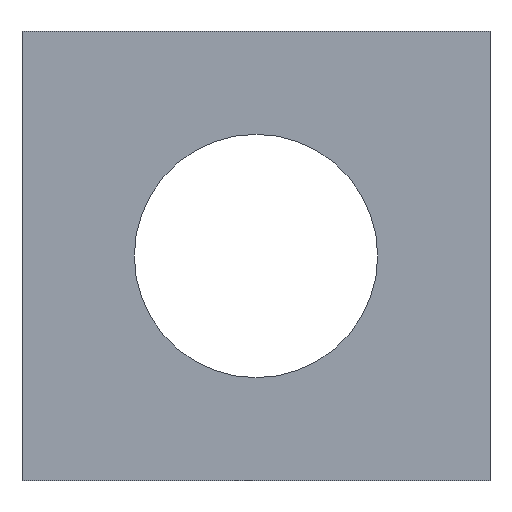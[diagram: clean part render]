
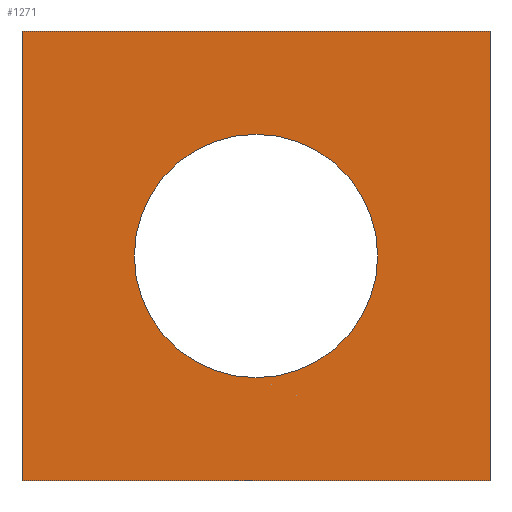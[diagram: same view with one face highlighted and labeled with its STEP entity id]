
A CAD part, front view. The second image highlights one B-rep face of the part: STEP entity #1271.
In plain terms, the highlighted planar face has unit normal (0, -1, 0).
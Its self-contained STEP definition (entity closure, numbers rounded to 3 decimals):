
#100 = PLANE('',#101);
#101 = AXIS2_PLACEMENT_3D('',#102,#103,#104);
#102 = CARTESIAN_POINT('',(-50.,-27.5,0.));
#103 = DIRECTION('',(0.,0.,1.));
#104 = DIRECTION('',(1.,0.,0.));
#591 = VERTEX_POINT('',#592);
#592 = CARTESIAN_POINT('',(-50.,-27.5,0.));
#606 = PLANE('',#607);
#607 = AXIS2_PLACEMENT_3D('',#608,#609,#610);
#608 = CARTESIAN_POINT('',(-50.,-27.5,0.));
#609 = DIRECTION('',(1.,0.,0.));
#610 = DIRECTION('',(0.,0.,1.));
#618 = EDGE_CURVE('',#619,#591,#621,.T.);
#619 = VERTEX_POINT('',#620);
#620 = CARTESIAN_POINT('',(50.,-27.5,0.));
#621 = SURFACE_CURVE('',#622,(#626,#633),.PCURVE_S1.);
#622 = LINE('',#623,#624);
#623 = CARTESIAN_POINT('',(50.,-27.5,0.));
#624 = VECTOR('',#625,1.);
#625 = DIRECTION('',(-1.,0.,0.));
#626 = PCURVE('',#100,#627);
#627 = DEFINITIONAL_REPRESENTATION('',(#628),#632);
#628 = LINE('',#629,#630);
#629 = CARTESIAN_POINT('',(100.,0.));
#630 = VECTOR('',#631,1.);
#631 = DIRECTION('',(-1.,0.));
#632 = ( GEOMETRIC_REPRESENTATION_CONTEXT(2) 
PARAMETRIC_REPRESENTATION_CONTEXT() REPRESENTATION_CONTEXT('2D SPACE',''
  ) );
#633 = PCURVE('',#634,#639);
#634 = PLANE('',#635);
#635 = AXIS2_PLACEMENT_3D('',#636,#637,#638);
#636 = CARTESIAN_POINT('',(-50.,-27.5,0.));
#637 = DIRECTION('',(0.,1.,0.));
#638 = DIRECTION('',(0.,0.,1.));
#639 = DEFINITIONAL_REPRESENTATION('',(#640),#644);
#640 = LINE('',#641,#642);
#641 = CARTESIAN_POINT('',(0.,100.));
#642 = VECTOR('',#643,1.);
#643 = DIRECTION('',(0.,-1.));
#644 = ( GEOMETRIC_REPRESENTATION_CONTEXT(2) 
PARAMETRIC_REPRESENTATION_CONTEXT() REPRESENTATION_CONTEXT('2D SPACE',''
  ) );
#662 = PLANE('',#663);
#663 = AXIS2_PLACEMENT_3D('',#664,#665,#666);
#664 = CARTESIAN_POINT('',(50.,-27.5,0.));
#665 = DIRECTION('',(1.,0.,0.));
#666 = DIRECTION('',(0.,0.,1.));
#941 = PLANE('',#942);
#942 = AXIS2_PLACEMENT_3D('',#943,#944,#945);
#943 = CARTESIAN_POINT('',(-50.,-27.5,96.));
#944 = DIRECTION('',(0.,0.,1.));
#945 = DIRECTION('',(1.,0.,0.));
#1015 = CYLINDRICAL_SURFACE('',#1016,26.);
#1016 = AXIS2_PLACEMENT_3D('',#1017,#1018,#1019);
#1017 = CARTESIAN_POINT('',(0.,0.,48.));
#1018 = DIRECTION('',(-0.,1.,-0.));
#1019 = DIRECTION('',(1.,0.,0.));
#1226 = EDGE_CURVE('',#591,#1227,#1229,.T.);
#1227 = VERTEX_POINT('',#1228);
#1228 = CARTESIAN_POINT('',(-50.,-27.5,96.));
#1229 = SURFACE_CURVE('',#1230,(#1234,#1241),.PCURVE_S1.);
#1230 = LINE('',#1231,#1232);
#1231 = CARTESIAN_POINT('',(-50.,-27.5,0.));
#1232 = VECTOR('',#1233,1.);
#1233 = DIRECTION('',(0.,0.,1.));
#1234 = PCURVE('',#606,#1235);
#1235 = DEFINITIONAL_REPRESENTATION('',(#1236),#1240);
#1236 = LINE('',#1237,#1238);
#1237 = CARTESIAN_POINT('',(0.,0.));
#1238 = VECTOR('',#1239,1.);
#1239 = DIRECTION('',(1.,0.));
#1240 = ( GEOMETRIC_REPRESENTATION_CONTEXT(2) 
PARAMETRIC_REPRESENTATION_CONTEXT() REPRESENTATION_CONTEXT('2D SPACE',''
  ) );
#1241 = PCURVE('',#634,#1242);
#1242 = DEFINITIONAL_REPRESENTATION('',(#1243),#1247);
#1243 = LINE('',#1244,#1245);
#1244 = CARTESIAN_POINT('',(0.,0.));
#1245 = VECTOR('',#1246,1.);
#1246 = DIRECTION('',(1.,0.));
#1247 = ( GEOMETRIC_REPRESENTATION_CONTEXT(2) 
PARAMETRIC_REPRESENTATION_CONTEXT() REPRESENTATION_CONTEXT('2D SPACE',''
  ) );
#1271 = ADVANCED_FACE('',(#1272,#1320),#634,.F.);
#1272 = FACE_BOUND('',#1273,.F.);
#1273 = EDGE_LOOP('',(#1274,#1275,#1298,#1319));
#1274 = ORIENTED_EDGE('',*,*,#1226,.T.);
#1275 = ORIENTED_EDGE('',*,*,#1276,.T.);
#1276 = EDGE_CURVE('',#1227,#1277,#1279,.T.);
#1277 = VERTEX_POINT('',#1278);
#1278 = CARTESIAN_POINT('',(50.,-27.5,96.));
#1279 = SURFACE_CURVE('',#1280,(#1284,#1291),.PCURVE_S1.);
#1280 = LINE('',#1281,#1282);
#1281 = CARTESIAN_POINT('',(-50.,-27.5,96.));
#1282 = VECTOR('',#1283,1.);
#1283 = DIRECTION('',(1.,0.,0.));
#1284 = PCURVE('',#634,#1285);
#1285 = DEFINITIONAL_REPRESENTATION('',(#1286),#1290);
#1286 = LINE('',#1287,#1288);
#1287 = CARTESIAN_POINT('',(96.,0.));
#1288 = VECTOR('',#1289,1.);
#1289 = DIRECTION('',(0.,1.));
#1290 = ( GEOMETRIC_REPRESENTATION_CONTEXT(2) 
PARAMETRIC_REPRESENTATION_CONTEXT() REPRESENTATION_CONTEXT('2D SPACE',''
  ) );
#1291 = PCURVE('',#941,#1292);
#1292 = DEFINITIONAL_REPRESENTATION('',(#1293),#1297);
#1293 = LINE('',#1294,#1295);
#1294 = CARTESIAN_POINT('',(0.,0.));
#1295 = VECTOR('',#1296,1.);
#1296 = DIRECTION('',(1.,0.));
#1297 = ( GEOMETRIC_REPRESENTATION_CONTEXT(2) 
PARAMETRIC_REPRESENTATION_CONTEXT() REPRESENTATION_CONTEXT('2D SPACE',''
  ) );
#1298 = ORIENTED_EDGE('',*,*,#1299,.F.);
#1299 = EDGE_CURVE('',#619,#1277,#1300,.T.);
#1300 = SURFACE_CURVE('',#1301,(#1305,#1312),.PCURVE_S1.);
#1301 = LINE('',#1302,#1303);
#1302 = CARTESIAN_POINT('',(50.,-27.5,0.));
#1303 = VECTOR('',#1304,1.);
#1304 = DIRECTION('',(0.,0.,1.));
#1305 = PCURVE('',#634,#1306);
#1306 = DEFINITIONAL_REPRESENTATION('',(#1307),#1311);
#1307 = LINE('',#1308,#1309);
#1308 = CARTESIAN_POINT('',(0.,100.));
#1309 = VECTOR('',#1310,1.);
#1310 = DIRECTION('',(1.,0.));
#1311 = ( GEOMETRIC_REPRESENTATION_CONTEXT(2) 
PARAMETRIC_REPRESENTATION_CONTEXT() REPRESENTATION_CONTEXT('2D SPACE',''
  ) );
#1312 = PCURVE('',#662,#1313);
#1313 = DEFINITIONAL_REPRESENTATION('',(#1314),#1318);
#1314 = LINE('',#1315,#1316);
#1315 = CARTESIAN_POINT('',(0.,0.));
#1316 = VECTOR('',#1317,1.);
#1317 = DIRECTION('',(1.,0.));
#1318 = ( GEOMETRIC_REPRESENTATION_CONTEXT(2) 
PARAMETRIC_REPRESENTATION_CONTEXT() REPRESENTATION_CONTEXT('2D SPACE',''
  ) );
#1319 = ORIENTED_EDGE('',*,*,#618,.T.);
#1320 = FACE_BOUND('',#1321,.F.);
#1321 = EDGE_LOOP('',(#1322));
#1322 = ORIENTED_EDGE('',*,*,#1323,.F.);
#1323 = EDGE_CURVE('',#1324,#1324,#1326,.T.);
#1324 = VERTEX_POINT('',#1325);
#1325 = CARTESIAN_POINT('',(26.,-27.5,48.));
#1326 = SURFACE_CURVE('',#1327,(#1332,#1339),.PCURVE_S1.);
#1327 = CIRCLE('',#1328,26.);
#1328 = AXIS2_PLACEMENT_3D('',#1329,#1330,#1331);
#1329 = CARTESIAN_POINT('',(0.,-27.5,48.));
#1330 = DIRECTION('',(-0.,1.,0.));
#1331 = DIRECTION('',(1.,0.,0.));
#1332 = PCURVE('',#634,#1333);
#1333 = DEFINITIONAL_REPRESENTATION('',(#1334),#1338);
#1334 = CIRCLE('',#1335,26.);
#1335 = AXIS2_PLACEMENT_2D('',#1336,#1337);
#1336 = CARTESIAN_POINT('',(48.,50.));
#1337 = DIRECTION('',(0.,1.));
#1338 = ( GEOMETRIC_REPRESENTATION_CONTEXT(2) 
PARAMETRIC_REPRESENTATION_CONTEXT() REPRESENTATION_CONTEXT('2D SPACE',''
  ) );
#1339 = PCURVE('',#1015,#1340);
#1340 = DEFINITIONAL_REPRESENTATION('',(#1341),#1345);
#1341 = LINE('',#1342,#1343);
#1342 = CARTESIAN_POINT('',(-6.283,-27.5));
#1343 = VECTOR('',#1344,1.);
#1344 = DIRECTION('',(1.,-0.));
#1345 = ( GEOMETRIC_REPRESENTATION_CONTEXT(2) 
PARAMETRIC_REPRESENTATION_CONTEXT() REPRESENTATION_CONTEXT('2D SPACE',''
  ) );
